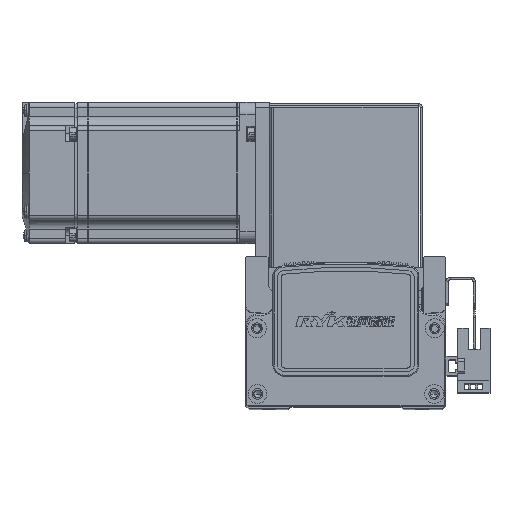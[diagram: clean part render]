
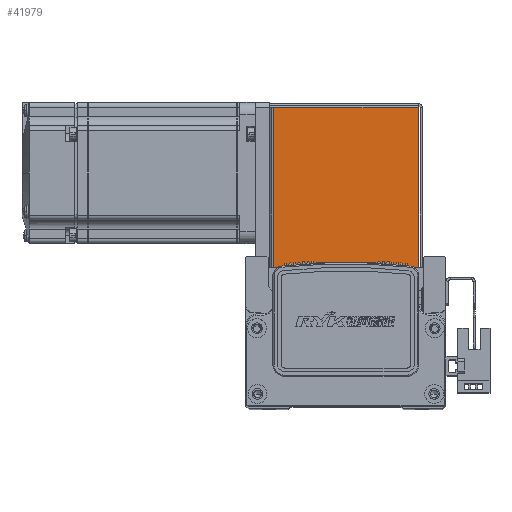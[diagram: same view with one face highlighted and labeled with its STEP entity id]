
A CAD part, top view. The second image highlights one B-rep face of the part: STEP entity #41979.
In plain terms, the highlighted planar face has unit normal (0, 0, 1).
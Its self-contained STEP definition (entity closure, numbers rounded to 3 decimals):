
#7715 = CARTESIAN_POINT ( 'NONE',  ( -32.5, 0.737, 35. ) ) ;
#7718 = DIRECTION ( 'NONE',  ( -1., 0., 0. ) ) ;
#7749 = DIRECTION ( 'NONE',  ( -1., 0., 0. ) ) ;
#7757 = CARTESIAN_POINT ( 'NONE',  ( 0., 68.5, 35. ) ) ;
#7761 = CARTESIAN_POINT ( 'NONE',  ( 30.763, 0.737, 35. ) ) ;
#7763 = DIRECTION ( 'NONE',  ( 0., 1., 0. ) ) ;
#7848 = CARTESIAN_POINT ( 'NONE',  ( -30.793, 0., 35. ) ) ;
#7850 = DIRECTION ( 'NONE',  ( 0., 1., 0. ) ) ;
#9058 = AXIS2_PLACEMENT_3D ( 'NONE', #72394, #72367, #72373 ) ;
#10066 = EDGE_CURVE ( 'NONE', #60812, #60755, #54912, .T. ) ;
#10068 = EDGE_CURVE ( 'NONE', #60812, #60808, #54962, .T. ) ;
#10072 = EDGE_CURVE ( 'NONE', #60808, #60732, #54923, .T. ) ;
#10112 = EDGE_CURVE ( 'NONE', #60755, #60732, #55030, .T. ) ;
#18911 = FACE_OUTER_BOUND ( 'NONE', #47265, .T. ) ;
#27055 = ORIENTED_EDGE ( 'NONE', *, *, #10068, .T. ) ;
#27095 = ORIENTED_EDGE ( 'NONE', *, *, #10072, .T. ) ;
#27212 = ORIENTED_EDGE ( 'NONE', *, *, #10066, .F. ) ;
#27227 = ORIENTED_EDGE ( 'NONE', *, *, #10112, .F. ) ;
#41979 = ADVANCED_FACE ( 'NONE', ( #18911 ), #72362, .F. ) ;
#47265 = EDGE_LOOP ( 'NONE', ( #27055, #27095, #27227, #27212 ) ) ;
#54912 = LINE ( 'NONE', #7715, #54914 ) ;
#54914 = VECTOR ( 'NONE', #7718, 1000. ) ;
#54923 = LINE ( 'NONE', #7757, #54933 ) ;
#54931 = VECTOR ( 'NONE', #7763, 1000. ) ;
#54933 = VECTOR ( 'NONE', #7749, 1000. ) ;
#54962 = LINE ( 'NONE', #7761, #54931 ) ;
#54992 = VECTOR ( 'NONE', #7850, 1000. ) ;
#55030 = LINE ( 'NONE', #7848, #54992 ) ;
#57323 = CARTESIAN_POINT ( 'NONE',  ( -30.793, 0.737, 35. ) ) ;
#57337 = CARTESIAN_POINT ( 'NONE',  ( 30.763, 0.737, 35. ) ) ;
#57340 = CARTESIAN_POINT ( 'NONE',  ( -30.793, 68.5, 35. ) ) ;
#57363 = CARTESIAN_POINT ( 'NONE',  ( 30.763, 68.5, 35. ) ) ;
#60732 = VERTEX_POINT ( 'NONE', #57340 ) ;
#60755 = VERTEX_POINT ( 'NONE', #57323 ) ;
#60808 = VERTEX_POINT ( 'NONE', #57363 ) ;
#60812 = VERTEX_POINT ( 'NONE', #57337 ) ;
#72362 = PLANE ( 'NONE',  #9058 ) ;
#72367 = DIRECTION ( 'NONE',  ( 0., 0., -1. ) ) ;
#72373 = DIRECTION ( 'NONE',  ( -1., 0., 0. ) ) ;
#72394 = CARTESIAN_POINT ( 'NONE',  ( 0., 0., 35. ) ) ;
